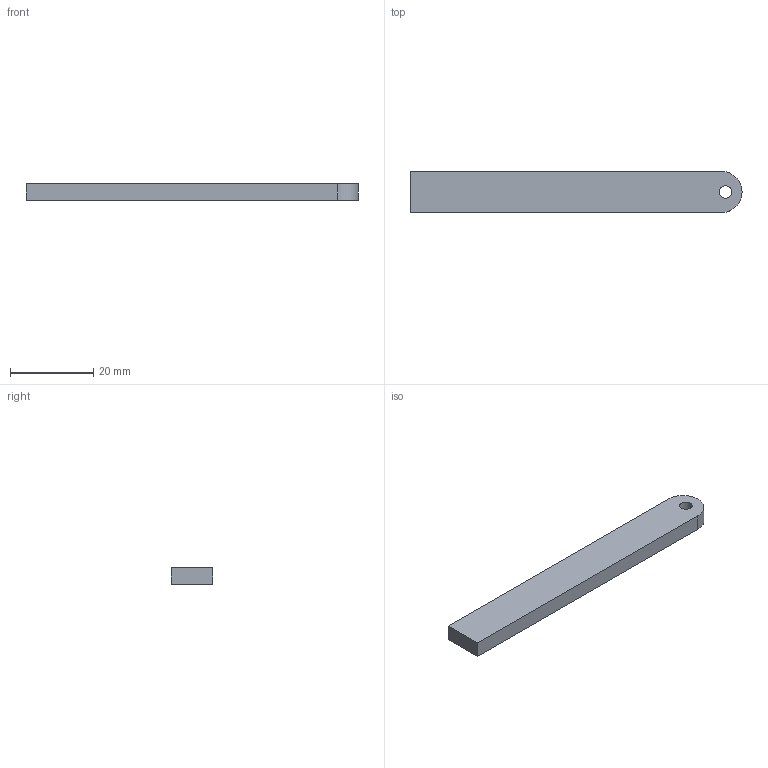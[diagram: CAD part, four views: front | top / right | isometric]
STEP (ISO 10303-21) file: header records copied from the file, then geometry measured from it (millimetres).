
FILE_DESCRIPTION(('STEP AP214'),'1');
FILE_NAME('tmp0.step','2025-05-01T11:38:12',(' '),(' '),'Spatial InterOp 3D',' ',' ');
FILE_SCHEMA(('AUTOMOTIVE_DESIGN { 1 0 10303 214 1 1 1 1 }'));
Length unit declared in the file: millimetre
Products named in the file (1): 1
Bounding box: 80 x 10 x 4 mm (x, y, z)
Volume: 3128.8 mm3; surface area: 2304.9 mm2
Topology: 1 solids, 1 shells, 9 faces, 21 edges, 14 vertices
Faces by surface type: plane 5, cylinder 4
Entity records: 292 total; most frequent: DIRECTION 49, CARTESIAN_POINT 45, ORIENTED_EDGE 42, EDGE_CURVE 21, AXIS2_PLACEMENT_3D 18, VERTEX_POINT 14, LINE 13, VECTOR 13
